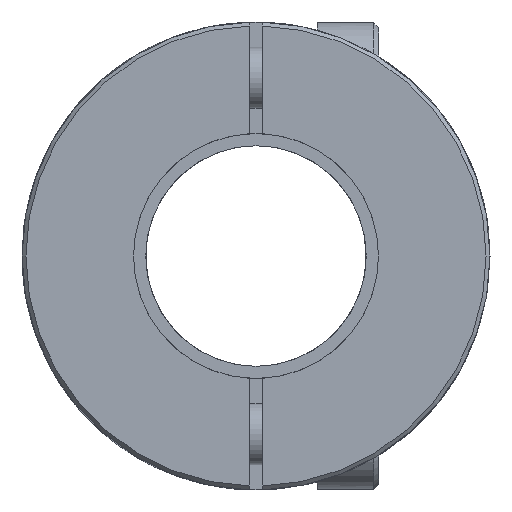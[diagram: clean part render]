
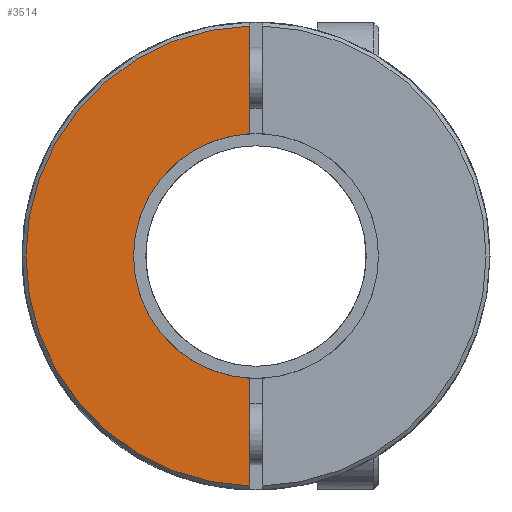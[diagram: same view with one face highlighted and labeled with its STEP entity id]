
A CAD part, front view. The second image highlights one B-rep face of the part: STEP entity #3514.
In plain terms, the highlighted planar face has unit normal (0, -1, 0).
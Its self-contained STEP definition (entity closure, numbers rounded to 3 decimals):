
#1=DIRECTION('',(0.,0.,-1.));
#2=VECTOR('',#1,4.393);
#3=CARTESIAN_POINT('',(-0.25,-14.,9.387));
#4=LINE('',#3,#2);
#5=DIRECTION('',(0.,0.,-1.));
#6=VECTOR('',#5,4.393);
#7=CARTESIAN_POINT('',(-0.25,-14.,-4.994));
#8=LINE('',#7,#6);
#72=CARTESIAN_POINT('',(0.,-14.,0.));
#73=DIRECTION('',(0.,1.,0.));
#74=DIRECTION('',(-0.05,0.,-0.999));
#75=AXIS2_PLACEMENT_3D('',#72,#73,#74);
#2940=CARTESIAN_POINT('',(0.,-14.,0.));
#2941=DIRECTION('',(0.,-1.,0.));
#2942=DIRECTION('',(-0.027,0.,1.));
#2943=AXIS2_PLACEMENT_3D('',#2940,#2941,#2942);
#3175=CARTESIAN_POINT('',(-0.25,-14.,9.387));
#3176=CARTESIAN_POINT('',(-0.25,-14.,4.994));
#3177=VERTEX_POINT('',#3175);
#3178=VERTEX_POINT('',#3176);
#3179=CARTESIAN_POINT('',(-0.25,-14.,-4.994));
#3180=CARTESIAN_POINT('',(-0.25,-14.,-9.387));
#3181=VERTEX_POINT('',#3179);
#3182=VERTEX_POINT('',#3180);
#3499=CARTESIAN_POINT('',(0.,-14.,0.));
#3500=DIRECTION('',(0.,1.,0.));
#3501=DIRECTION('',(1.,0.,0.));
#3502=AXIS2_PLACEMENT_3D('',#3499,#3500,#3501);
#3503=PLANE('',#3502);
#3505=ORIENTED_EDGE('',*,*,#3504,.T.);
#3507=ORIENTED_EDGE('',*,*,#3506,.F.);
#3509=ORIENTED_EDGE('',*,*,#3508,.T.);
#3511=ORIENTED_EDGE('',*,*,#3510,.F.);
#3512=EDGE_LOOP('',(#3505,#3507,#3509,#3511));
#3513=FACE_OUTER_BOUND('',#3512,.F.);
#3514=ADVANCED_FACE('',(#3513),#3503,.F.);
#76=CIRCLE('',#75,5.);
#2944=CIRCLE('',#2943,9.39);
#3504=EDGE_CURVE('',#3177,#3178,#4,.T.);
#3506=EDGE_CURVE('',#3181,#3178,#76,.T.);
#3508=EDGE_CURVE('',#3181,#3182,#8,.T.);
#3510=EDGE_CURVE('',#3177,#3182,#2944,.T.);
